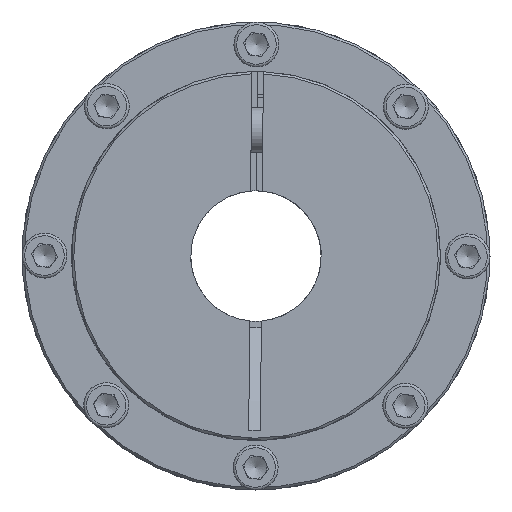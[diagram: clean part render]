
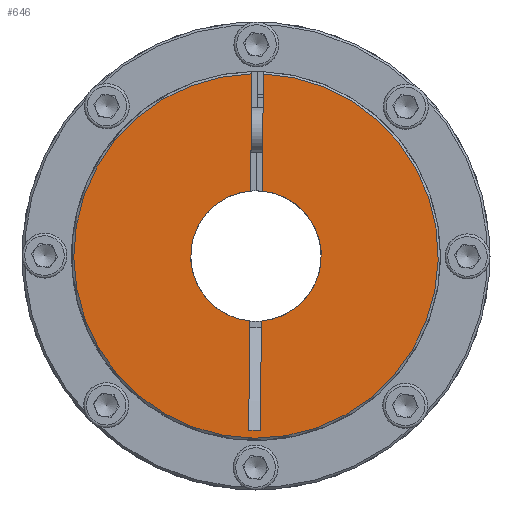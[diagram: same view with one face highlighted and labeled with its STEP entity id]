
A CAD part, left-side view. The second image highlights one B-rep face of the part: STEP entity #646.
In plain terms, the highlighted planar face has unit normal (-1, 0, 0).
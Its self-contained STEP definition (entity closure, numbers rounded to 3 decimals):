
#646 = ADVANCED_FACE( 'NONE', ( #1288 ), #1289, .F. );
#1288 = FACE_OUTER_BOUND( '', #2102, .T. );
#1289 = PLANE( '', #2103 );
#2102 = EDGE_LOOP( '', ( #3095, #3096, #3097, #3098, #3099, #3100, #3101, #3102 ) );
#2103 = AXIS2_PLACEMENT_3D( '', #3103, #3104, #3105 );
#3095 = ORIENTED_EDGE( '', *, *, #4297, .T. );
#3096 = ORIENTED_EDGE( '', *, *, #4298, .T. );
#3097 = ORIENTED_EDGE( '', *, *, #4275, .T. );
#3098 = ORIENTED_EDGE( '', *, *, #4253, .T. );
#3099 = ORIENTED_EDGE( '', *, *, #4299, .F. );
#3100 = ORIENTED_EDGE( '', *, *, #4300, .T. );
#3101 = ORIENTED_EDGE( '', *, *, #4301, .F. );
#3102 = ORIENTED_EDGE( '', *, *, #4302, .T. );
#3103 = CARTESIAN_POINT( '', ( 0., 7., 0. ) );
#3104 = DIRECTION( '', ( 1., 0., 0. ) );
#3105 = DIRECTION( '', ( 0., 1., 0. ) );
#4253 = EDGE_CURVE( 'NONE', #4891, #4892, #4893, .F. );
#4275 = EDGE_CURVE( '', #4926, #4891, #4927, .T. );
#4297 = EDGE_CURVE( 'NONE', #4961, #4962, #4963, .T. );
#4298 = EDGE_CURVE( '', #4962, #4926, #4964, .T. );
#4299 = EDGE_CURVE( '', #4965, #4892, #4966, .F. );
#4300 = EDGE_CURVE( '', #4965, #4967, #4968, .T. );
#4301 = EDGE_CURVE( 'NONE', #4969, #4967, #4970, .F. );
#4302 = EDGE_CURVE( 'NONE', #4969, #4961, #4971, .T. );
#4891 = VERTEX_POINT( 'NONE', #5709 );
#4892 = VERTEX_POINT( 'NONE', #5710 );
#4893 = CIRCLE( '', #5711, 40.5 );
#4926 = VERTEX_POINT( '', #5750 );
#4927 = LINE( '', #5751, #5752 );
#4961 = VERTEX_POINT( 'NONE', #5794 );
#4962 = VERTEX_POINT( '', #5795 );
#4963 = LINE( '', #5796, #5797 );
#4964 = CIRCLE( '', #5798, 14.5 );
#4965 = VERTEX_POINT( '', #5799 );
#4966 = LINE( '', #5800, #5801 );
#4967 = VERTEX_POINT( '', #5802 );
#4968 = CIRCLE( '', #5803, 14.5 );
#4969 = VERTEX_POINT( 'NONE', #5804 );
#4970 = LINE( '', #5805, #5806 );
#4971 = LINE( '', #5807, #5808 );
#5709 = CARTESIAN_POINT( '', ( 0., 1.3, 40.479 ) );
#5710 = CARTESIAN_POINT( '', ( 0., -1.3, 40.479 ) );
#5711 = AXIS2_PLACEMENT_3D( '', #6686, #6687, #6688 );
#5750 = CARTESIAN_POINT( '', ( 0., 1.3, 14.442 ) );
#5751 = CARTESIAN_POINT( '', ( 0., 1.3, 0. ) );
#5752 = VECTOR( '', #6722, 1000. );
#5794 = CARTESIAN_POINT( '', ( 0., 1.3, -38.697 ) );
#5795 = CARTESIAN_POINT( '', ( 0., 1.3, -14.442 ) );
#5796 = CARTESIAN_POINT( '', ( 0., 1.3, 0. ) );
#5797 = VECTOR( '', #6758, 1000. );
#5798 = AXIS2_PLACEMENT_3D( '', #6759, #6760, #6761 );
#5799 = CARTESIAN_POINT( '', ( 0., -1.3, 14.442 ) );
#5800 = CARTESIAN_POINT( '', ( 0., -1.3, 11. ) );
#5801 = VECTOR( '', #6762, 1000. );
#5802 = CARTESIAN_POINT( '', ( 0., -1.3, -14.442 ) );
#5803 = AXIS2_PLACEMENT_3D( '', #6763, #6764, #6765 );
#5804 = CARTESIAN_POINT( '', ( 0., -1.3, -38.697 ) );
#5805 = CARTESIAN_POINT( '', ( 0., -1.3, 11. ) );
#5806 = VECTOR( '', #6766, 1000. );
#5807 = CARTESIAN_POINT( '', ( 0., -1.3, -38.697 ) );
#5808 = VECTOR( '', #6767, 1000. );
#6686 = CARTESIAN_POINT( '', ( 0., 0., 0. ) );
#6687 = DIRECTION( '', ( 1., 0., 0. ) );
#6688 = DIRECTION( '', ( 0., 0., -1. ) );
#6722 = DIRECTION( '', ( 0., 0., 1. ) );
#6758 = DIRECTION( '', ( 0., 0., 1. ) );
#6759 = CARTESIAN_POINT( '', ( 0., 0., 0. ) );
#6760 = DIRECTION( '', ( 1., 0., 0. ) );
#6761 = DIRECTION( '', ( 0., 0., -1. ) );
#6762 = DIRECTION( '', ( 0., 0., -1. ) );
#6763 = CARTESIAN_POINT( '', ( 0., 0., 0. ) );
#6764 = DIRECTION( '', ( 1., 0., 0. ) );
#6765 = DIRECTION( '', ( 0., 0., -1. ) );
#6766 = DIRECTION( '', ( 0., 0., -1. ) );
#6767 = DIRECTION( '', ( 0., 1., 0. ) );
